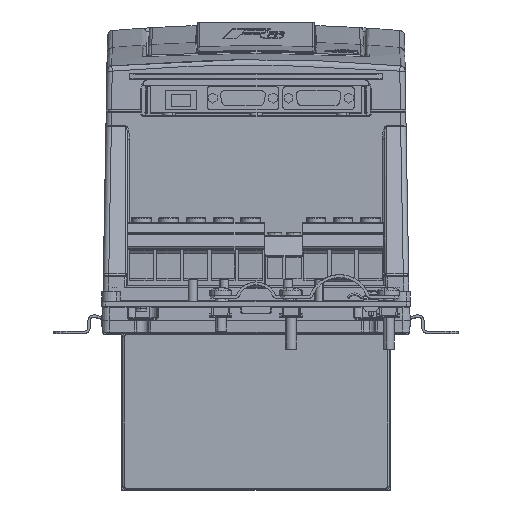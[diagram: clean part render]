
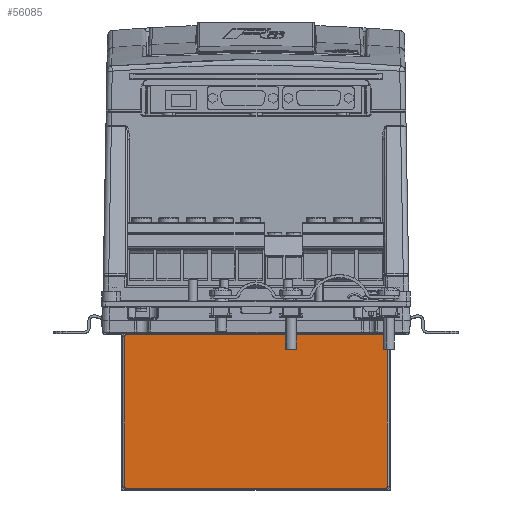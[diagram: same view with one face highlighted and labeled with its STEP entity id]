
A CAD part, top view. The second image highlights one B-rep face of the part: STEP entity #56085.
In plain terms, the highlighted planar face has unit normal (0, 0, 1).
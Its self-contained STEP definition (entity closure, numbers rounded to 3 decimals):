
#1848 = VERTEX_POINT ( 'NONE', #30424 ) ;
#6308 = DIRECTION ( 'NONE',  ( 1., 0., 0. ) ) ;
#6818 = CARTESIAN_POINT ( 'NONE',  ( -71.5, -87., 60. ) ) ;
#7567 = LINE ( 'NONE', #94609, #13735 ) ;
#7808 = ORIENTED_EDGE ( 'NONE', *, *, #32957, .T. ) ;
#9611 = CARTESIAN_POINT ( 'NONE',  ( -71.5, -4.5, 60. ) ) ;
#12793 = ORIENTED_EDGE ( 'NONE', *, *, #108719, .T. ) ;
#13735 = VECTOR ( 'NONE', #6308, 1000. ) ;
#14401 = CARTESIAN_POINT ( 'NONE',  ( 72.5, -87., 60. ) ) ;
#23117 = ORIENTED_EDGE ( 'NONE', *, *, #64303, .T. ) ;
#23475 = DIRECTION ( 'NONE',  ( 0., 0., 1. ) ) ;
#26032 = DIRECTION ( 'NONE',  ( -1., 0., 0. ) ) ;
#29539 = CARTESIAN_POINT ( 'NONE',  ( 72.5, -4.5, 60. ) ) ;
#30086 = CARTESIAN_POINT ( 'NONE',  ( -71.5, -3.5, 60. ) ) ;
#30424 = CARTESIAN_POINT ( 'NONE',  ( 71.5, -88., 60. ) ) ;
#32957 = EDGE_CURVE ( 'NONE', #1848, #87856, #103314, .T. ) ;
#33031 = DIRECTION ( 'NONE',  ( 1., 0., 0. ) ) ;
#34299 = DIRECTION ( 'NONE',  ( 0., 0., 1. ) ) ;
#34359 = EDGE_CURVE ( 'NONE', #85489, #34826, #103414, .T. ) ;
#34456 = CARTESIAN_POINT ( 'NONE',  ( 71.5, -4.5, 60. ) ) ;
#34826 = VERTEX_POINT ( 'NONE', #30086 ) ;
#35079 = VERTEX_POINT ( 'NONE', #87986 ) ;
#37514 = CARTESIAN_POINT ( 'NONE',  ( -72.5, -4.5, 60. ) ) ;
#37954 = DIRECTION ( 'NONE',  ( 1., 0., 0. ) ) ;
#45495 = EDGE_CURVE ( 'NONE', #87856, #106394, #92560, .T. ) ;
#47608 = DIRECTION ( 'NONE',  ( 0., 0., 1. ) ) ;
#52435 = CIRCLE ( 'NONE', #109896, 1. ) ;
#53761 = CARTESIAN_POINT ( 'NONE',  ( 71.5, -87., 60. ) ) ;
#55794 = DIRECTION ( 'NONE',  ( 0., 0., 1. ) ) ;
#56085 = ADVANCED_FACE ( 'NONE', ( #72360 ), #104546, .T. ) ;
#56222 = AXIS2_PLACEMENT_3D ( 'NONE', #6818, #55794, #75760 ) ;
#56965 = LINE ( 'NONE', #86628, #91514 ) ;
#61514 = EDGE_LOOP ( 'NONE', ( #84637, #84705, #124937, #78056, #23117, #108350, #12793, #7808 ) ) ;
#64303 = EDGE_CURVE ( 'NONE', #115482, #35079, #56965, .T. ) ;
#64810 = EDGE_CURVE ( 'NONE', #34826, #115482, #52435, .T. ) ;
#67737 = CARTESIAN_POINT ( 'NONE',  ( 0., -3.5, 60. ) ) ;
#71090 = AXIS2_PLACEMENT_3D ( 'NONE', #114283, #34299, #33031 ) ;
#72360 = FACE_OUTER_BOUND ( 'NONE', #61514, .T. ) ;
#72513 = DIRECTION ( 'NONE',  ( 1., 0., 0. ) ) ;
#75760 = DIRECTION ( 'NONE',  ( 1., 0., 0. ) ) ;
#78056 = ORIENTED_EDGE ( 'NONE', *, *, #64810, .T. ) ;
#84637 = ORIENTED_EDGE ( 'NONE', *, *, #45495, .T. ) ;
#84705 = ORIENTED_EDGE ( 'NONE', *, *, #111986, .T. ) ;
#85489 = VERTEX_POINT ( 'NONE', #102769 ) ;
#86628 = CARTESIAN_POINT ( 'NONE',  ( -72.5, -45.75, 60. ) ) ;
#87856 = VERTEX_POINT ( 'NONE', #14401 ) ;
#87986 = CARTESIAN_POINT ( 'NONE',  ( -72.5, -87., 60. ) ) ;
#90611 = CARTESIAN_POINT ( 'NONE',  ( -71.5, -88., 60. ) ) ;
#91514 = VECTOR ( 'NONE', #126056, 1000. ) ;
#92560 = LINE ( 'NONE', #109398, #101882 ) ;
#94124 = VERTEX_POINT ( 'NONE', #90611 ) ;
#94609 = CARTESIAN_POINT ( 'NONE',  ( 0., -88., 60. ) ) ;
#99676 = DIRECTION ( 'NONE',  ( 0., 1., 0. ) ) ;
#101495 = CIRCLE ( 'NONE', #56222, 1. ) ;
#101882 = VECTOR ( 'NONE', #99676, 1000. ) ;
#102769 = CARTESIAN_POINT ( 'NONE',  ( 71.5, -3.5, 60. ) ) ;
#103314 = CIRCLE ( 'NONE', #109511, 1. ) ;
#103414 = LINE ( 'NONE', #67737, #105628 ) ;
#104546 = PLANE ( 'NONE',  #71090 ) ;
#105628 = VECTOR ( 'NONE', #26032, 1000. ) ;
#106394 = VERTEX_POINT ( 'NONE', #29539 ) ;
#108350 = ORIENTED_EDGE ( 'NONE', *, *, #124117, .T. ) ;
#108719 = EDGE_CURVE ( 'NONE', #94124, #1848, #7567, .T. ) ;
#109398 = CARTESIAN_POINT ( 'NONE',  ( 72.5, -45.75, 60. ) ) ;
#109511 = AXIS2_PLACEMENT_3D ( 'NONE', #53761, #23475, #112481 ) ;
#109896 = AXIS2_PLACEMENT_3D ( 'NONE', #9611, #47608, #37954 ) ;
#111986 = EDGE_CURVE ( 'NONE', #106394, #85489, #121558, .T. ) ;
#112481 = DIRECTION ( 'NONE',  ( 1., 0., 0. ) ) ;
#114283 = CARTESIAN_POINT ( 'NONE',  ( 0., -45.75, 60. ) ) ;
#115371 = AXIS2_PLACEMENT_3D ( 'NONE', #34456, #122197, #72513 ) ;
#115482 = VERTEX_POINT ( 'NONE', #37514 ) ;
#121558 = CIRCLE ( 'NONE', #115371, 1. ) ;
#122197 = DIRECTION ( 'NONE',  ( 0., 0., 1. ) ) ;
#124117 = EDGE_CURVE ( 'NONE', #35079, #94124, #101495, .T. ) ;
#124937 = ORIENTED_EDGE ( 'NONE', *, *, #34359, .T. ) ;
#126056 = DIRECTION ( 'NONE',  ( 0., -1., 0. ) ) ;
